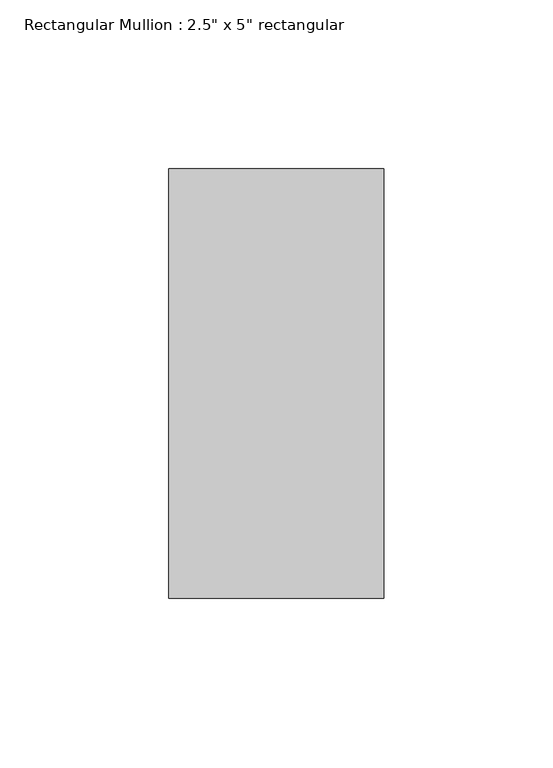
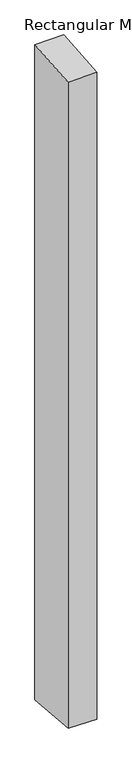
"""IFC4 building model written with IfcOpenShell, lengths in millimetres: member geometry."""

from ifc_helpers import new_model, si_unit, origin, place, context, project, spatial, faceted_brep, source, transform, mapped, element, save


def member_73d42494(model_context):
    return source(origin(), model_context, "Body", "Brep", [
        faceted_brep([(-63.5, 63.5, 4.8086767), (0.0, 63.5, 5.2884211), (0.0, 63.5, -1529.2884211), (-63.5, 63.5, -1528.8086767), (-63.5, -63.5, -5.7681655), (-63.5, -63.5, -1518.2318345), (0.0, -63.5, -5.2884211), (0.0, -63.5, -1518.7115789)], [[[0, 1, 2, 3]], [[4, 0, 3, 5]], [[6, 4, 5, 7]], [[1, 6, 7, 2]], [[1, 0, 4, 6]], [[2, 7, 5, 3]]]),
    ])


if __name__ == "__main__":
    model = new_model("IFC4")
    model_context = context("Model", 3, world=origin())
    ifc_project = project(units=[si_unit("LENGTHUNIT", "METRE", prefix="MILLI")], contexts=[model_context])
    site = spatial("IfcSite", under=ifc_project)
    building = spatial("IfcBuilding", under=site)
    placement = place(None, origin())
    member_shape = member_73d42494(model_context)
    element("IfcMember", 1, ObjectType="Rectangular Mullion : 2.5\" x 5\" rectangular", at=placement, inside=building, context=model_context, shape_type="MappedRepresentation", body=[
        mapped(member_shape, transform((0.0, 0.0, 0.0), x_axis=(1.0, 0.0, 0.0), y_axis=(0.0, 1.0, 0.0), z_axis=(0.0, 0.0, 1.0))),
    ])
    save(model, "model.ifc")
